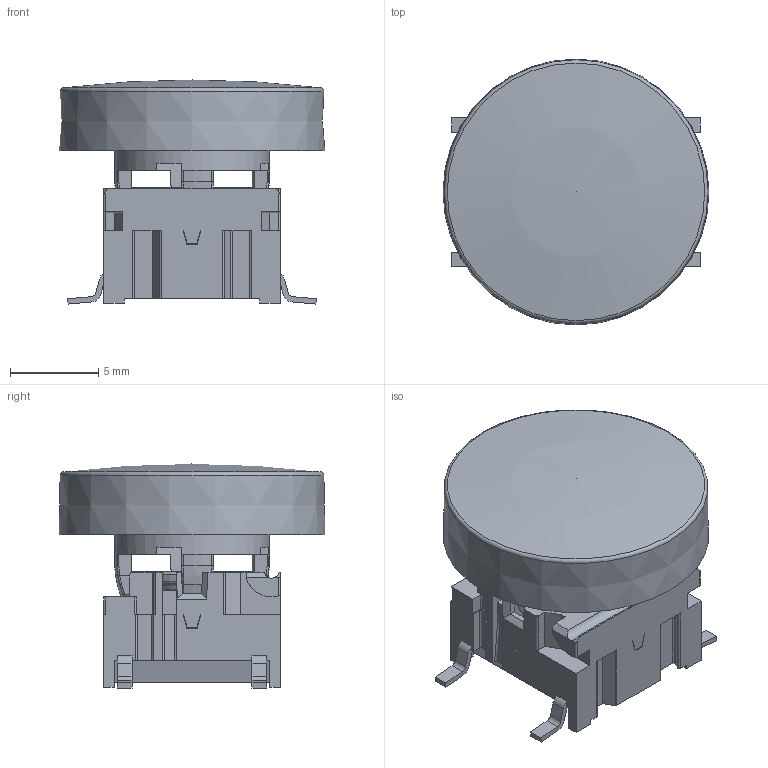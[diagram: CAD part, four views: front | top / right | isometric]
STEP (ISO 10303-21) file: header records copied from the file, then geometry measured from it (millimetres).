
FILE_DESCRIPTION(/* description */ (''),/* implementation_level */ '2;1');
FILE_NAME(/* name */ 'C:\Users\cgh.MEC\Desktop\Traceparts - 3D programserie\STEP filer\SMD\5GSH9+1GCS.stp',/* time_stamp */ '2016-02-16T13:31:30+01:00',/* author */ ('cgh'),/* organization */ (''),/* preprocessor_version */ 'ST-DEVELOPER v15.2',/* originating_system */ 'Autodesk Inventor 2014',/* authorisation */ '');
FILE_SCHEMA (('AUTOMOTIVE_DESIGN { 1 0 10303 214 3 1 1 }'));
Length unit declared in the file: centimetre
Products named in the file (1): cgh
Bounding box: 15.02 x 15.02 x 12.66 mm (x, y, z)
Volume: 847.5 mm3; surface area: 1735.6 mm2
Topology: 1 solids, 1 shells, 993 faces, 2811 edges, 1839 vertices
Faces by surface type: plane 622, bspline 140, cylinder 135, torus 57, cone 38, sphere 1
Full cylindrical faces by diameter (mm): 0.9 x1, 1 x3, 2.8 x1, 4.73 x1, 6.5 x1, 7.2 x1, 7.44 x1, 8.76 x1
Entity records: 35625 total; most frequent: CARTESIAN_POINT 9717, ORIENTED_EDGE 5550, DIRECTION 4645, EDGE_CURVE 2767, VERTEX_POINT 1824, LINE 1739, VECTOR 1739, AXIS2_PLACEMENT_3D 1453
